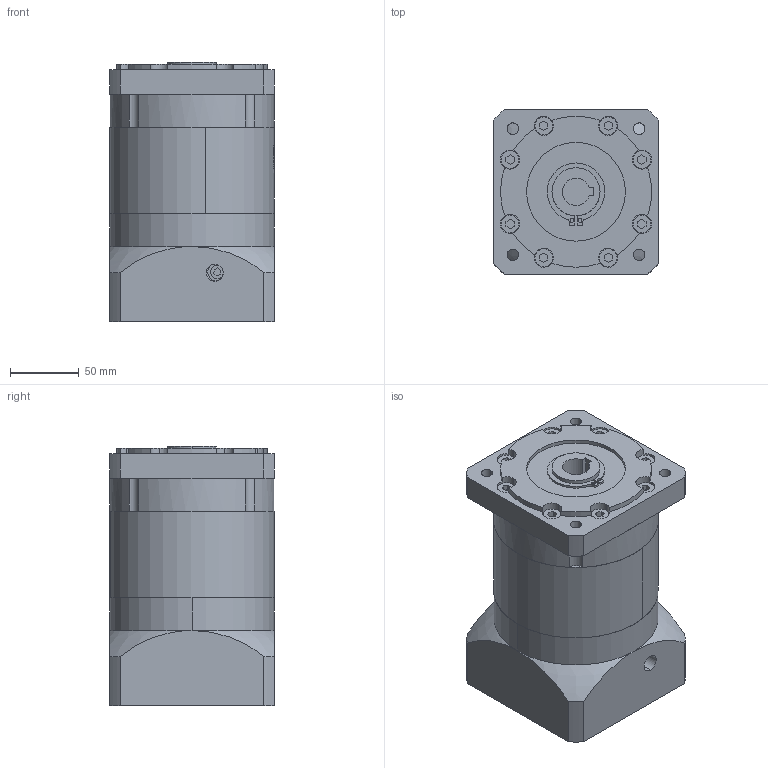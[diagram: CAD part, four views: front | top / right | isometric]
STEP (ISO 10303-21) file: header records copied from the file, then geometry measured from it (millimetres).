
FILE_DESCRIPTION (( 'STEP AP203' ), '1' );
FILE_NAME ('PLB120-L2-24-110-145.STEP', '2022-07-21T09:44:55', ( 'Windows User' ), ( 'P R C' ), 'SwSTEP 2.0', 'SolidWorks 2016', '' );
FILE_SCHEMA (( 'CONFIG_CONTROL_DESIGN' ));
Length unit declared in the file: millimetre
Products named in the file (7): PBF120 狟屳唳-24; 粣創-6007 40x68x15; PLB120-L2-24-110-145; 囀鞠褒蹟佪 M6x20; PBF120 蟀諉啣-LR62.5; PBF120 內齿圈-优化_二级内齿圈; PBF120 奻屳唳-謂怀堤-20-B6
Assembly tree (6 placements, depth 2):
  PLB120-L2-24-110-145
    囀鞠褒蹟佪 M6x20
    PBF120 蟀諉啣-LR62.5
    PBF120 內齿圈-优化_二级内齿圈
    PBF120 奻屳唳-謂怀堤-20-B6
    PBF120 狟屳唳-24
    粣創-6007 40x68x15
Bounding box: 120 x 120 x 189.5 mm (x, y, z)
Volume: 2063556.2 mm3; surface area: 249894.4 mm2
Topology: 6 solids, 14 shells, 1126 faces, 3019 edges, 1995 vertices
Faces by surface type: plane 631, cylinder 209, bspline 130, sphere 94, torus 52, cone 10
Entity records: 45259 total; most frequent: CARTESIAN_POINT 17210, ORIENTED_EDGE 6010, DIRECTION 5168, EDGE_CURVE 3005, VERTEX_POINT 1991, AXIS2_PLACEMENT_3D 1814, VECTOR 1540, LINE 1540
